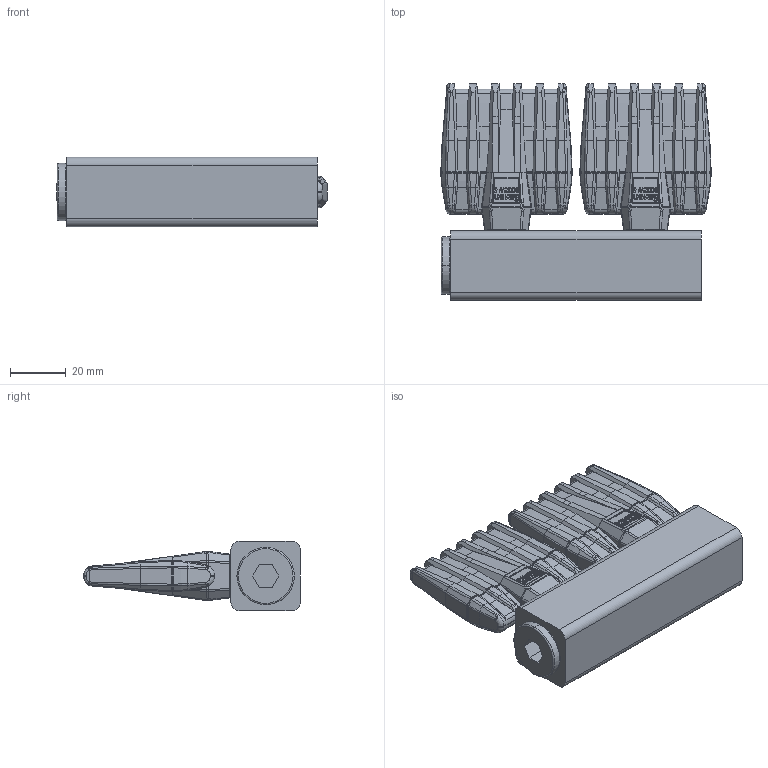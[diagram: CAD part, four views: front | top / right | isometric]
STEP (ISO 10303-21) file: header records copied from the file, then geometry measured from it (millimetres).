
FILE_DESCRIPTION (( 'STEP AP203' ), '1' );
FILE_NAME ('392W-S.STEP', '2019-09-06T12:35:02', ( '' ), ( '' ), 'SwSTEP 2.0', 'SolidWorks 2016', '' );
FILE_SCHEMA (( 'CONFIG_CONTROL_DESIGN' ));
Products named in the file (1): 392W-S
Bounding box: 97.21 x 78 x 25 mm (x, y, z)
Surface area: 31042.6 mm2 (no closed solid volume)
Topology: 0 solids, 6 shells, 2376 faces, 6486 edges, 4050 vertices
Faces by surface type: bspline 964, plane 826, cylinder 572, sphere 8, torus 4, cone 2
Entity records: 92378 total; most frequent: CARTESIAN_POINT 42329, ORIENTED_EDGE 12156, DIRECTION 7274, EDGE_CURVE 6446, VERTEX_POINT 4050, VECTOR 3100, LINE 3100, EDGE_LOOP 2462
